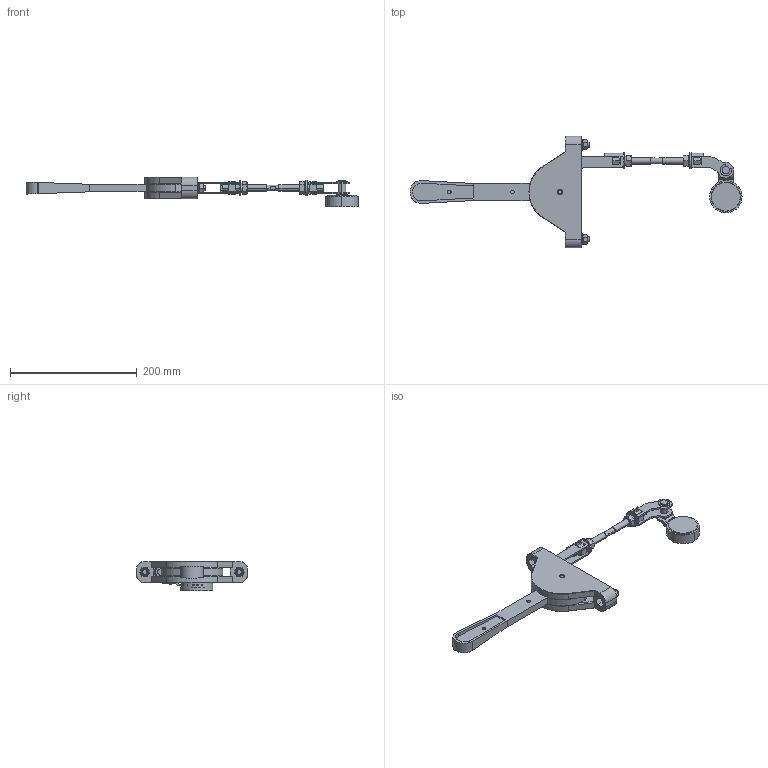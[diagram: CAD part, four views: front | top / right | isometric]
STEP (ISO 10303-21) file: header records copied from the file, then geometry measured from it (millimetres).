
FILE_DESCRIPTION (( 'STEP AP203' ), '1' );
FILE_NAME ('Ðóêîÿòêà ïåðåäíÿÿ ñìåùåííàÿ (630À).STEP', '2014-10-29T08:55:55', ( 'admin' ), ( '' ), 'SwSTEP 2.0', 'SolidWorks 2007', '' );
FILE_SCHEMA (( 'CONFIG_CONTROL_DESIGN' ));
Length unit declared in the file: millimetre
Products named in the file (1): Ðóêîÿòêà ïåðåäíÿÿ ñìåùåííàÿ  (630À)
Bounding box: 524.78 x 176 x 46.5 mm (x, y, z)
Surface area: 128830.8 mm2 (no closed solid volume)
Topology: 0 solids, 39 shells, 445 faces, 1365 edges, 955 vertices
Faces by surface type: plane 220, cylinder 168, cone 37, torus 18, sphere 2
Entity records: 15886 total; most frequent: CARTESIAN_POINT 3414, DIRECTION 2745, ORIENTED_EDGE 2276, EDGE_CURVE 1365, AXIS2_PLACEMENT_3D 1030, VERTEX_POINT 955, VECTOR 685, LINE 685
